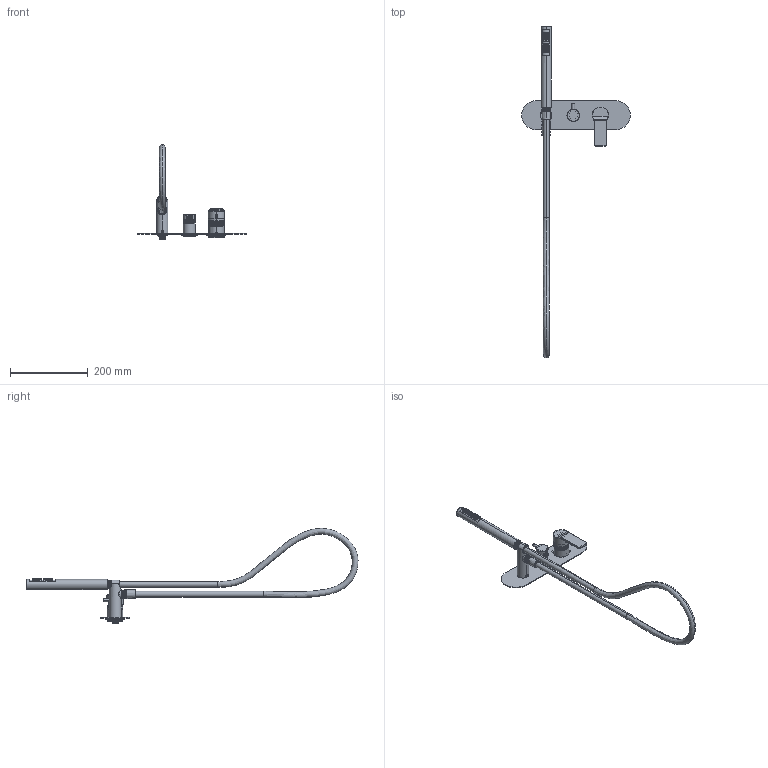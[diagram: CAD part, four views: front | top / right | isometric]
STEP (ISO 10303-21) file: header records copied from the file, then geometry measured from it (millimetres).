
FILE_DESCRIPTION((''),'2;1');
FILE_NAME('3D_SW0001','2024-03-14T13:49:58',('volponeff'),(''),'CREO PARAMETRIC BY PTC INC, 2022014','CREO PARAMETRIC BY PTC INC, 2022014','');
FILE_SCHEMA(('CONFIG_CONTROL_DESIGN'));
Products named in the file (1): 3D_SW0001
Bounding box: 280 x 856.75 x 245.87 mm (x, y, z)
Volume: 481127.5 mm3; surface area: 239465.2 mm2
Topology: 8 solids, 9 shells, 2207 faces, 5888 edges, 3797 vertices
Faces by surface type: cylinder 1061, plane 531, bspline 220, cone 211, torus 166, sphere 18
Entity records: 228251 total; most frequent: CARTESIAN_POINT 175837, ORIENTED_EDGE 11716, DIRECTION 9845, EDGE_CURVE 5858, VERTEX_POINT 3797, AXIS2_PLACEMENT_3D 3786, EDGE_LOOP 2413, VECTOR 2273
